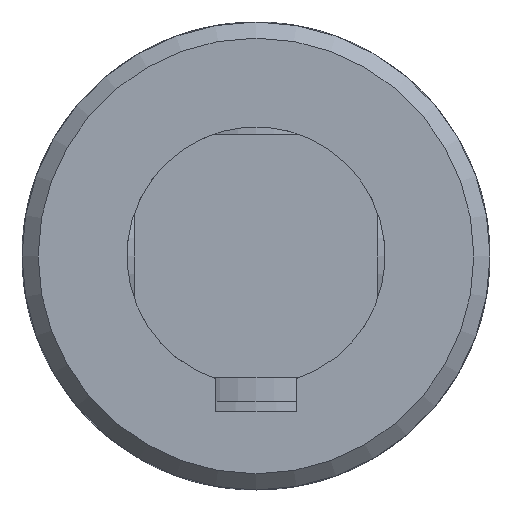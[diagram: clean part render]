
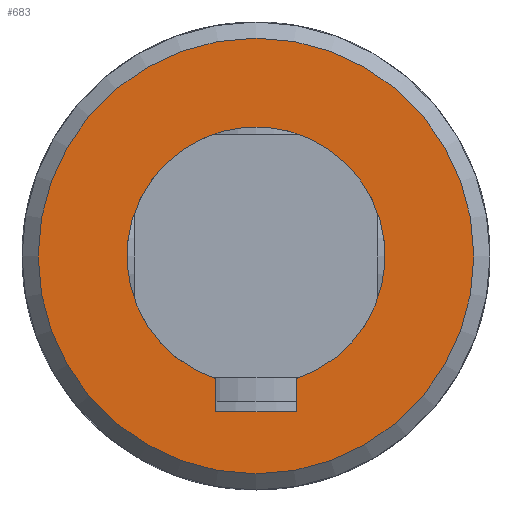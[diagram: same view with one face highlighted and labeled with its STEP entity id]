
A CAD part, front view. The second image highlights one B-rep face of the part: STEP entity #683.
In plain terms, the highlighted planar face has unit normal (0, -1, 0).
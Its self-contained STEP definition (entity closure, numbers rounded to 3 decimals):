
#78=LINE('',#1041,#109);
#81=LINE('',#1058,#112);
#83=LINE('',#1064,#114);
#109=VECTOR('',#854,4.101);
#112=VECTOR('',#859,10.);
#114=VECTOR('',#865,4.101);
#140=PLANE('',#746);
#166=FACE_BOUND('',#252,.T.);
#194=FACE_OUTER_BOUND('',#251,.T.);
#251=EDGE_LOOP('',(#553));
#252=EDGE_LOOP('',(#554,#555,#556,#557));
#293=CIRCLE('',#741,16.);
#295=CIRCLE('',#744,27.);
#330=VERTEX_POINT('',#1038);
#331=VERTEX_POINT('',#1040);
#333=VERTEX_POINT('',#1056);
#335=VERTEX_POINT('',#1062);
#341=VERTEX_POINT('',#1138);
#402=EDGE_CURVE('',#331,#330,#78,.T.);
#406=EDGE_CURVE('',#330,#333,#81,.T.);
#409=EDGE_CURVE('',#333,#335,#83,.T.);
#415=EDGE_CURVE('',#335,#331,#293,.T.);
#417=EDGE_CURVE('',#341,#341,#295,.T.);
#553=ORIENTED_EDGE('',*,*,#417,.F.);
#554=ORIENTED_EDGE('',*,*,#402,.T.);
#555=ORIENTED_EDGE('',*,*,#406,.T.);
#556=ORIENTED_EDGE('',*,*,#409,.T.);
#557=ORIENTED_EDGE('',*,*,#415,.T.);
#683=ADVANCED_FACE('',(#194,#166),#140,.F.);
#741=AXIS2_PLACEMENT_3D('',#1134,#874,#875);
#744=AXIS2_PLACEMENT_3D('',#1139,#880,#881);
#746=AXIS2_PLACEMENT_3D('',#1347,#888,#889);
#854=DIRECTION('',(0.,0.,-1.));
#859=DIRECTION('',(-1.,0.,0.));
#865=DIRECTION('',(0.,0.,1.));
#874=DIRECTION('center_axis',(0.,1.,0.));
#875=DIRECTION('ref_axis',(-0.313,0.,0.95));
#880=DIRECTION('center_axis',(0.,1.,0.));
#881=DIRECTION('ref_axis',(1.,0.,0.));
#888=DIRECTION('center_axis',(0.,1.,0.));
#889=DIRECTION('ref_axis',(0.,0.,1.));
#1038=CARTESIAN_POINT('',(5.,-79.5,-19.3));
#1040=CARTESIAN_POINT('',(5.,-79.5,-15.199));
#1041=CARTESIAN_POINT('',(5.,-79.5,-7.599));
#1056=CARTESIAN_POINT('',(-5.,-79.5,-19.3));
#1058=CARTESIAN_POINT('',(2.5,-79.5,-19.3));
#1062=CARTESIAN_POINT('',(-5.,-79.5,-15.199));
#1064=CARTESIAN_POINT('',(-5.,-79.5,-9.65));
#1134=CARTESIAN_POINT('Origin',(0.,-79.5,0.));
#1138=CARTESIAN_POINT('',(-27.,-79.5,0.));
#1139=CARTESIAN_POINT('Origin',(0.,-79.5,0.));
#1347=CARTESIAN_POINT('Origin',(0.,-79.5,0.));
